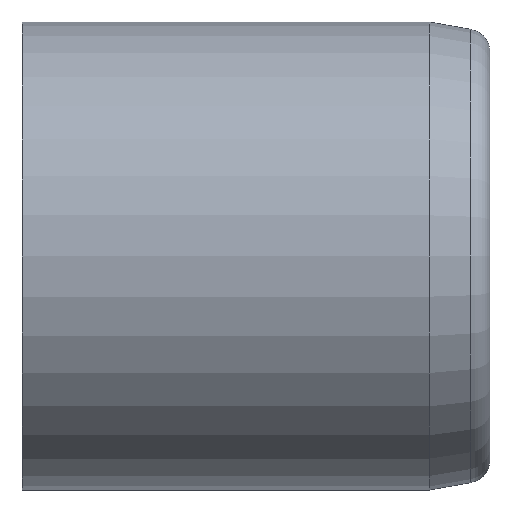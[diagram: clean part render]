
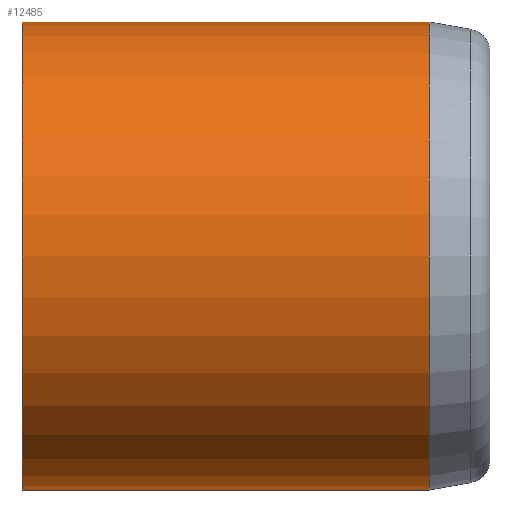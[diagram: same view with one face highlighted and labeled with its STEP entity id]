
A CAD part, left-side view. The second image highlights one B-rep face of the part: STEP entity #12485.
In plain terms, the highlighted cylindrical face has radius 10 mm (diameter 20 mm), a partial arc.
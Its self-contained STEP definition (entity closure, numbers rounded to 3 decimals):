
#1304 = CYLINDRICAL_SURFACE ( 'NONE', #4317, 10. ) ;
#1376 = DIRECTION ( 'NONE',  ( 0., 1., 0. ) ) ;
#1521 = CARTESIAN_POINT ( 'NONE',  ( 0., -9.8, 10. ) ) ;
#2005 = VECTOR ( 'NONE', #22611, 1000. ) ;
#2282 = EDGE_CURVE ( 'NONE', #22251, #2890, #17316, .T. ) ;
#2560 = CARTESIAN_POINT ( 'NONE',  ( 0., 20.13, -10. ) ) ;
#2866 = EDGE_LOOP ( 'NONE', ( #8567, #12647, #9174, #17449 ) ) ;
#2890 = VERTEX_POINT ( 'NONE', #19532 ) ;
#3497 = FACE_OUTER_BOUND ( 'NONE', #2866, .T. ) ;
#4253 = AXIS2_PLACEMENT_3D ( 'NONE', #21861, #13085, #7906 ) ;
#4317 = AXIS2_PLACEMENT_3D ( 'NONE', #11907, #5114, #6482 ) ;
#4841 = LINE ( 'NONE', #17280, #7758 ) ;
#5114 = DIRECTION ( 'NONE',  ( 0., 1., 0. ) ) ;
#5871 = EDGE_CURVE ( 'NONE', #2890, #16809, #8292, .T. ) ;
#6482 = DIRECTION ( 'NONE',  ( 0., 0., 1. ) ) ;
#6881 = DIRECTION ( 'NONE',  ( 0., 0., -1. ) ) ;
#6939 = AXIS2_PLACEMENT_3D ( 'NONE', #20948, #22564, #6881 ) ;
#7056 = CARTESIAN_POINT ( 'NONE',  ( 0., 2.73, 10. ) ) ;
#7758 = VECTOR ( 'NONE', #1376, 1000. ) ;
#7906 = DIRECTION ( 'NONE',  ( 0., 0., 1. ) ) ;
#8292 = CIRCLE ( 'NONE', #4253, 10. ) ;
#8567 = ORIENTED_EDGE ( 'NONE', *, *, #10902, .F. ) ;
#8804 = VERTEX_POINT ( 'NONE', #21456 ) ;
#9174 = ORIENTED_EDGE ( 'NONE', *, *, #2282, .T. ) ;
#10902 = EDGE_CURVE ( 'NONE', #8804, #16809, #4841, .T. ) ;
#11907 = CARTESIAN_POINT ( 'NONE',  ( 0., -9.8, 0. ) ) ;
#12485 = ADVANCED_FACE ( 'NONE', ( #3497 ), #1304, .T. ) ;
#12647 = ORIENTED_EDGE ( 'NONE', *, *, #19198, .F. ) ;
#13085 = DIRECTION ( 'NONE',  ( 0., -1., 0. ) ) ;
#16809 = VERTEX_POINT ( 'NONE', #2560 ) ;
#16874 = CIRCLE ( 'NONE', #6939, 10. ) ;
#17280 = CARTESIAN_POINT ( 'NONE',  ( 0., -9.8, -10. ) ) ;
#17316 = LINE ( 'NONE', #1521, #2005 ) ;
#17449 = ORIENTED_EDGE ( 'NONE', *, *, #5871, .T. ) ;
#19198 = EDGE_CURVE ( 'NONE', #22251, #8804, #16874, .T. ) ;
#19532 = CARTESIAN_POINT ( 'NONE',  ( 0., 20.13, 10. ) ) ;
#20948 = CARTESIAN_POINT ( 'NONE',  ( 0., 2.73, 0. ) ) ;
#21456 = CARTESIAN_POINT ( 'NONE',  ( 0., 2.73, -10. ) ) ;
#21861 = CARTESIAN_POINT ( 'NONE',  ( 0., 20.13, 0. ) ) ;
#22251 = VERTEX_POINT ( 'NONE', #7056 ) ;
#22564 = DIRECTION ( 'NONE',  ( 0., -1., 0. ) ) ;
#22611 = DIRECTION ( 'NONE',  ( 0., 1., 0. ) ) ;
